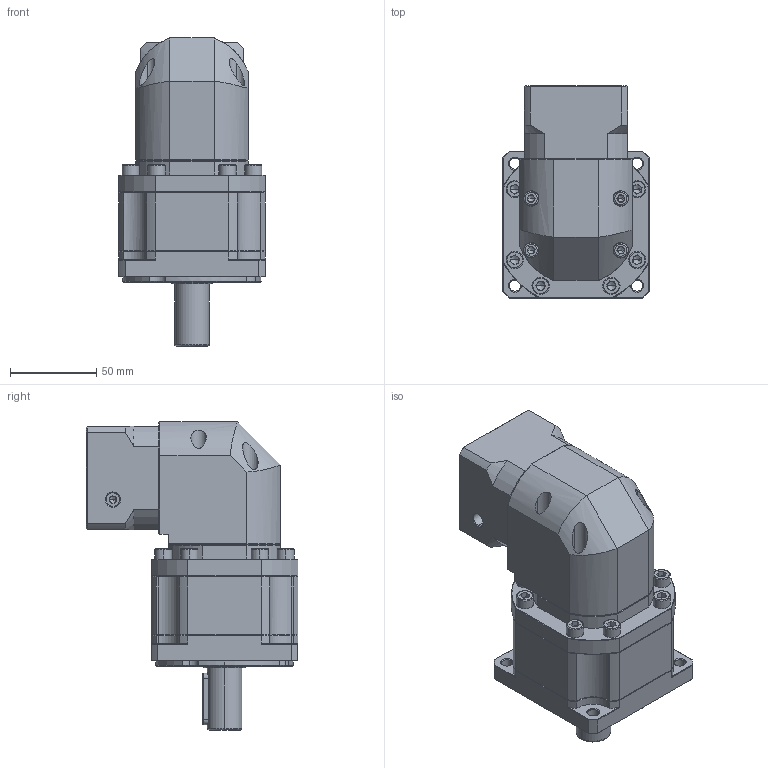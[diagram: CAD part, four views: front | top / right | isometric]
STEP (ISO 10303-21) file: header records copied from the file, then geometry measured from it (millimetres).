
FILE_DESCRIPTION (( 'STEP AP214' ), '1' );
FILE_NAME ('ZBR090-D20-L2-P2-6.35-38.1-47.14x47.14-M4.step', '2023-08-19T03:55:31', ( '' ), ( '' ), 'SwSTEP 2.0', 'SolidWorks 2016', '' );
FILE_SCHEMA (( 'AUTOMOTIVE_DESIGN' ));
Length unit declared in the file: millimetre
Products named in the file (1): ZBR090-D20-L2-P2-6.35-38.1-47.14x47.14-M4
Bounding box: 85 x 122.7 x 178.5 mm (x, y, z)
Volume: 804901.3 mm3; surface area: 100715.3 mm2
Topology: 5 solids, 5 shells, 2434 faces, 6441 edges, 4110 vertices
Faces by surface type: plane 1179, cylinder 439, bspline 438, cone 370, torus 8
Entity records: 127638 total; most frequent: CARTESIAN_POINT 43967, ORIENTED_EDGE 12790, DIRECTION 10259, EDGE_CURVE 6395, VERTEX_POINT 4110, VECTOR 4017, LINE 4017, AXIS2_PLACEMENT_3D 3121
